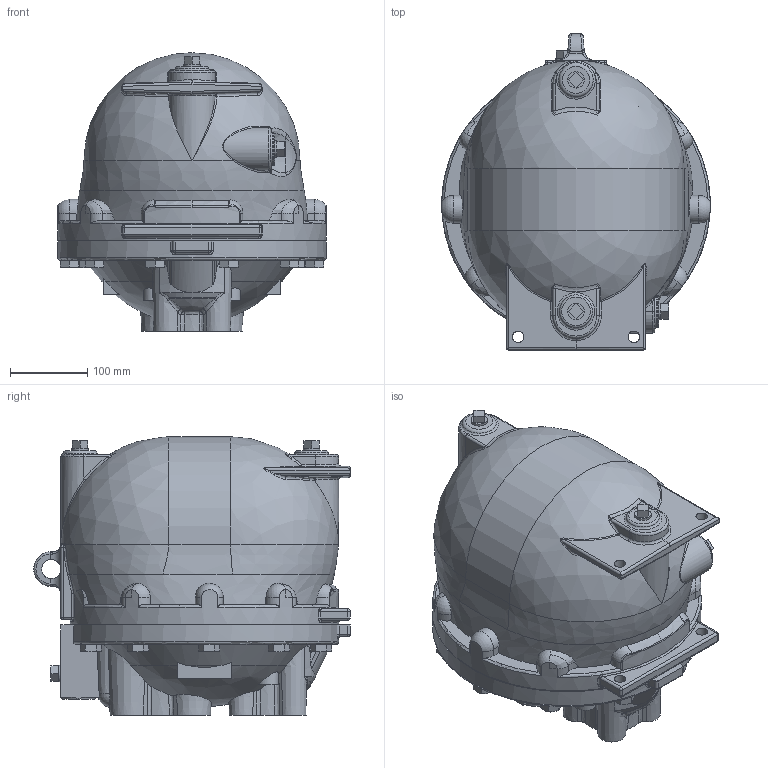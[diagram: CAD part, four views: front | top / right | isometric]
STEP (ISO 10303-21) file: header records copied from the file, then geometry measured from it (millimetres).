
FILE_DESCRIPTION(/* description */ (''),/* implementation_level */ '2;1');
FILE_NAME(/* name */ 'H:\nakaot\Inventor\COS\GPGT\gp14l-040-jis10-02.stp',/* time_stamp */ '2019-10-16T14:13:18+09:00',/* author */ ('nakaot'),/* organization */ (''),/* preprocessor_version */ 'ST-DEVELOPER v18',/* originating_system */ 'Autodesk Inventor 2020',/* authorisation */ '');
FILE_SCHEMA (('AUTOMOTIVE_DESIGN { 1 0 10303 214 3 1 1 }'));
Length unit declared in the file: millimetre
Products named in the file (1): gp14l-040-jis10-02
Bounding box: 348 x 409.98 x 361 mm (x, y, z)
Volume: 24038469.6 mm3; surface area: 725242.1 mm2
Topology: 1 solids, 10 shells, 691 faces, 1757 edges, 1079 vertices
Faces by surface type: plane 214, bspline 157, cylinder 143, cone 94, torus 52, sphere 31
Full cylindrical faces by diameter (mm): 13.835 x8, 15 x4, 16 x15, 18 x5, 18.631 x2, 21.258 x1, 21.268 x3, 25 x1, 30.291 x1, 42 x2, 44 x1, 280 x1, 300 x1, 348 x1
Entity records: 27913 total; most frequent: CARTESIAN_POINT 11598, ORIENTED_EDGE 3454, DIRECTION 3068, EDGE_CURVE 1727, AXIS2_PLACEMENT_3D 1290, VERTEX_POINT 1079, EDGE_LOOP 754, FACE_OUTER_BOUND 691
